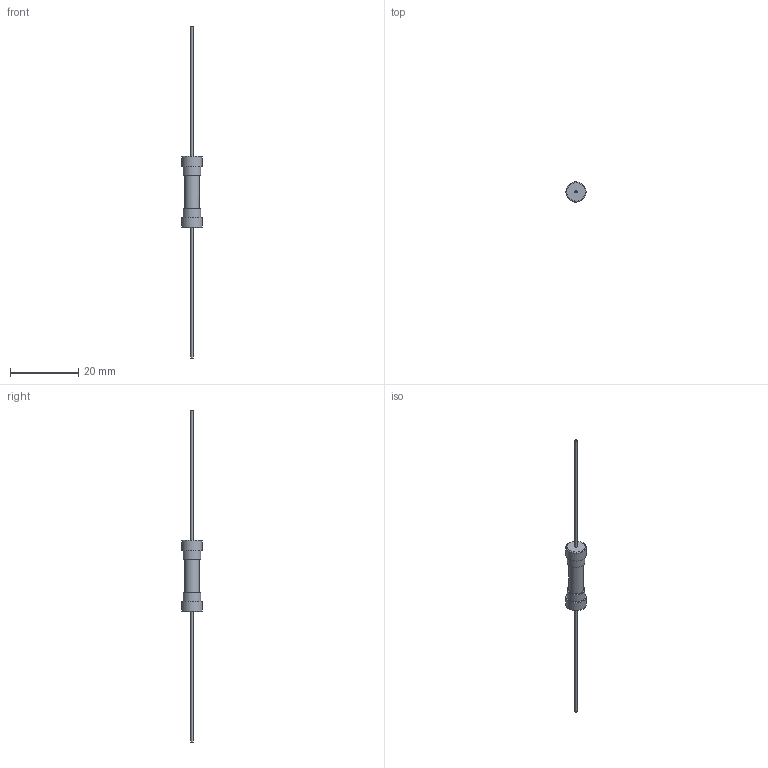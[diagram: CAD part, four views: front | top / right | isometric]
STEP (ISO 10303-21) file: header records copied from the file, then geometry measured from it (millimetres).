
FILE_DESCRIPTION(/* description */ (''),/* implementation_level */ '2;1');
FILE_NAME(/* name */ 'C:\Users\Hani\Desktop\work\FCC\FCC-P.stp',/* time_stamp */ '2022-01-30T10:28:02-08:00',/* author */ ('Hani'),/* organization */ (''),/* preprocessor_version */ 'ST-DEVELOPER v17',/* originating_system */ 'Autodesk Inventor 2019',/* authorisation */ '');
FILE_SCHEMA (('AUTOMOTIVE_DESIGN { 1 0 10303 214 3 1 1 }'));
Length unit declared in the file: inch
Products named in the file (3): FCC-P; FCC; terminal_wire_5.9mm-38.1L
Assembly tree (3 placements, depth 2):
  FCC-P
    FCC
    terminal_wire_5.9mm-38.1L  x2
Bounding box: 5.9 x 5.9 x 97.22 mm (x, y, z)
Volume: 434.1 mm3; surface area: 955.7 mm2
Topology: 4 solids, 4 shells, 165 faces, 441 edges, 294 vertices
Faces by surface type: plane 71, bspline 67, cylinder 23, torus 4
Full cylindrical faces by diameter (mm): 0.6 x2, 4.318 x1, 4.438 x1, 5.2 x4, 5.9 x2
Entity records: 6490 total; most frequent: CARTESIAN_POINT 2759, ORIENTED_EDGE 856, DIRECTION 574, EDGE_CURVE 428, VERTEX_POINT 285, LINE 192, VECTOR 192, AXIS2_PLACEMENT_3D 191
